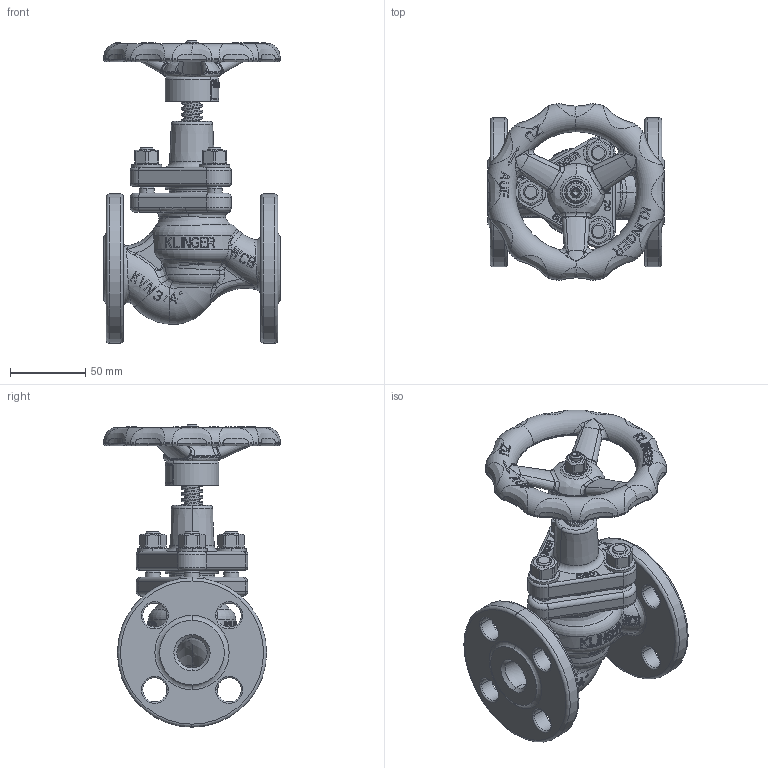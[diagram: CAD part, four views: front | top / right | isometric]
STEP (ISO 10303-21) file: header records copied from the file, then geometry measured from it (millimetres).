
FILE_DESCRIPTION((''),'2;1');
FILE_NAME('KVNFL-34S-----C150PGG_SW0001','2026-09-28T11:22:33',('jeitlers'),('KLINGER'),'CREO PARAMETRIC BY PTC INC, 2025443','CREO PARAMETRIC BY PTC INC, 2025443','');
FILE_SCHEMA(('CONFIG_CONTROL_DESIGN'));
Products named in the file (1): KVNFL-34S-----C150PGG_SW0001
Bounding box: 117.42 x 117.42 x 200.6 mm (x, y, z)
Volume: 435873.9 mm3; surface area: 133675.1 mm2
Topology: 3 solids, 9 shells, 2705 faces, 7128 edges, 4522 vertices
Faces by surface type: plane 1535, bspline 487, cylinder 340, torus 244, cone 97, sphere 2
Entity records: 149989 total; most frequent: CARTESIAN_POINT 88511, ORIENTED_EDGE 14248, DIRECTION 10620, EDGE_CURVE 7124, VERTEX_POINT 4522, AXIS2_PLACEMENT_3D 3707, VECTOR 3206, LINE 3206
